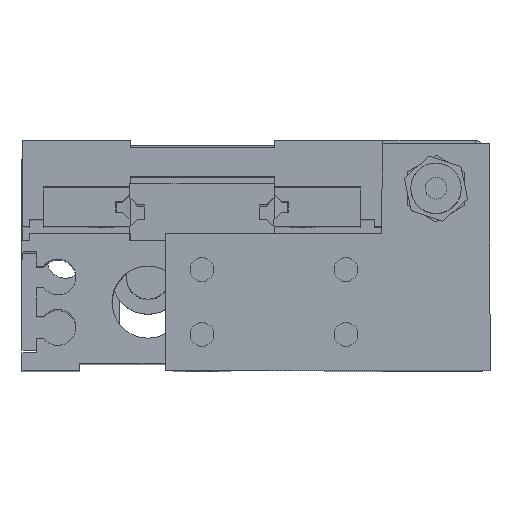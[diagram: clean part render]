
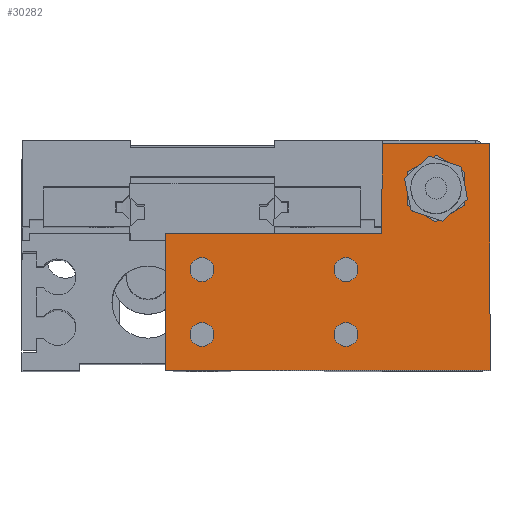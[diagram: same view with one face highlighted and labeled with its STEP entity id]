
A CAD part, top view. The second image highlights one B-rep face of the part: STEP entity #30282.
In plain terms, the highlighted planar face has unit normal (0, 0, 1).
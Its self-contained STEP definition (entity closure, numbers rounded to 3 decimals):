
#19429 = CIRCLE ( 'NONE', #19482, 1.65 ) ;
#19430 = CARTESIAN_POINT ( 'NONE',  ( -11.65, -4.5, 8. ) ) ;
#19431 = CIRCLE ( 'NONE', #19486, 1.65 ) ;
#19463 = CARTESIAN_POINT ( 'NONE',  ( 8.35, -4.5, 8. ) ) ;
#19471 = CARTESIAN_POINT ( 'NONE',  ( 8.35, 4.5, 8. ) ) ;
#19473 = DIRECTION ( 'NONE',  ( 1., 0., 0. ) ) ;
#19474 = DIRECTION ( 'NONE',  ( 0., 0., 1. ) ) ;
#19479 = DIRECTION ( 'NONE',  ( 1., 0., 0. ) ) ;
#19480 = DIRECTION ( 'NONE',  ( 0., 0., 1. ) ) ;
#19481 = AXIS2_PLACEMENT_3D ( 'NONE', #19488, #19474, #19473 ) ;
#19482 = AXIS2_PLACEMENT_3D ( 'NONE', #19491, #19480, #19479 ) ;
#19483 = DIRECTION ( 'NONE',  ( 1., 0., 0. ) ) ;
#19484 = DIRECTION ( 'NONE',  ( 0., 0., 1. ) ) ;
#19485 = CARTESIAN_POINT ( 'NONE',  ( 10., -4.5, 8. ) ) ;
#19486 = AXIS2_PLACEMENT_3D ( 'NONE', #19485, #19484, #19483 ) ;
#19487 = CIRCLE ( 'NONE', #19481, 3.5 ) ;
#19488 = CARTESIAN_POINT ( 'NONE',  ( 22.5, 15.75, 8. ) ) ;
#19491 = CARTESIAN_POINT ( 'NONE',  ( -10., -4.5, 8. ) ) ;
#19510 = CARTESIAN_POINT ( 'NONE',  ( 11.65, -4.5, 8. ) ) ;
#19524 = CARTESIAN_POINT ( 'NONE',  ( -8.35, -4.5, 8. ) ) ;
#19535 = DIRECTION ( 'NONE',  ( 1., 0., 0. ) ) ;
#19536 = DIRECTION ( 'NONE',  ( 0., 0., 1. ) ) ;
#19537 = CARTESIAN_POINT ( 'NONE',  ( 10., 4.5, 8. ) ) ;
#19538 = AXIS2_PLACEMENT_3D ( 'NONE', #19537, #19536, #19535 ) ;
#19540 = CIRCLE ( 'NONE', #19538, 1.65 ) ;
#19549 = CARTESIAN_POINT ( 'NONE',  ( 11.65, 4.5, 8. ) ) ;
#19555 = CARTESIAN_POINT ( 'NONE',  ( -11.65, 4.5, 8. ) ) ;
#19561 = CARTESIAN_POINT ( 'NONE',  ( -15., -9.5, 8. ) ) ;
#19567 = AXIS2_PLACEMENT_3D ( 'NONE', #19569, #19627, #19626 ) ;
#19569 = CARTESIAN_POINT ( 'NONE',  ( -10., 4.5, 8. ) ) ;
#19571 = CIRCLE ( 'NONE', #19567, 1.65 ) ;
#19575 = CARTESIAN_POINT ( 'NONE',  ( 30., -9.5, 8. ) ) ;
#19580 = CARTESIAN_POINT ( 'NONE',  ( -15., 9.5, 8. ) ) ;
#19586 = CARTESIAN_POINT ( 'NONE',  ( -15., 9.5, 8. ) ) ;
#19587 = LINE ( 'NONE', #19586, #19671 ) ;
#19588 = CARTESIAN_POINT ( 'NONE',  ( -8.35, 4.5, 8. ) ) ;
#19626 = DIRECTION ( 'NONE',  ( 1., 0., 0. ) ) ;
#19627 = DIRECTION ( 'NONE',  ( 0., 0., 1. ) ) ;
#19634 = DIRECTION ( 'NONE',  ( 1., 0., 0. ) ) ;
#19635 = VECTOR ( 'NONE', #19634, 1000. ) ;
#19636 = CARTESIAN_POINT ( 'NONE',  ( -15., -9.5, 8. ) ) ;
#19638 = LINE ( 'NONE', #19636, #19635 ) ;
#19670 = DIRECTION ( 'NONE',  ( 0., -1., 0. ) ) ;
#19671 = VECTOR ( 'NONE', #19670, 1000. ) ;
#19693 = CARTESIAN_POINT ( 'NONE',  ( 30., 22., 8. ) ) ;
#19707 = CARTESIAN_POINT ( 'NONE',  ( 15., 9.5, 8. ) ) ;
#19710 = DIRECTION ( 'NONE',  ( 0., 1., 0. ) ) ;
#19711 = VECTOR ( 'NONE', #19710, 1000. ) ;
#19712 = CARTESIAN_POINT ( 'NONE',  ( 30., 22., 8. ) ) ;
#19713 = LINE ( 'NONE', #19712, #19711 ) ;
#19714 = CARTESIAN_POINT ( 'NONE',  ( 15., 22., 8. ) ) ;
#19718 = CARTESIAN_POINT ( 'NONE',  ( 26., 15.75, 8. ) ) ;
#19726 = DIRECTION ( 'NONE',  ( -1., 0., 0. ) ) ;
#19727 = VECTOR ( 'NONE', #19726, 1000. ) ;
#19731 = CARTESIAN_POINT ( 'NONE',  ( 15., 22., 8. ) ) ;
#19732 = LINE ( 'NONE', #19731, #19727 ) ;
#19736 = CARTESIAN_POINT ( 'NONE',  ( 22.5, 15.75, 8. ) ) ;
#19737 = FACE_BOUND ( 'NONE', #30264, .T. ) ;
#19738 = DIRECTION ( 'NONE',  ( 1., 0., 0. ) ) ;
#19739 = DIRECTION ( 'NONE',  ( 0., 0., 1. ) ) ;
#19740 = AXIS2_PLACEMENT_3D ( 'NONE', #19748, #19739, #19738 ) ;
#19742 = PLANE ( 'NONE',  #19783 ) ;
#19743 = FACE_BOUND ( 'NONE', #30272, .T. ) ;
#19748 = CARTESIAN_POINT ( 'NONE',  ( 10., 4.5, 8. ) ) ;
#19749 = CARTESIAN_POINT ( 'NONE',  ( -15., -9.5, 8. ) ) ;
#19756 = CIRCLE ( 'NONE', #19740, 1.65 ) ;
#19758 = DIRECTION ( 'NONE',  ( -1., 0., 0. ) ) ;
#19759 = VECTOR ( 'NONE', #19758, 1000. ) ;
#19762 = CARTESIAN_POINT ( 'NONE',  ( -15., 9.5, 8. ) ) ;
#19763 = LINE ( 'NONE', #19762, #19759 ) ;
#19765 = LINE ( 'NONE', #19801, #19800 ) ;
#19776 = CARTESIAN_POINT ( 'NONE',  ( 10., -4.5, 8. ) ) ;
#19779 = DIRECTION ( 'NONE',  ( 0., 0., 1. ) ) ;
#19783 = AXIS2_PLACEMENT_3D ( 'NONE', #19749, #19779, #19798 ) ;
#19786 = FACE_BOUND ( 'NONE', #30284, .T. ) ;
#19787 = FACE_BOUND ( 'NONE', #30309, .T. ) ;
#19788 = DIRECTION ( 'NONE',  ( 1., 0., 0. ) ) ;
#19789 = DIRECTION ( 'NONE',  ( 0., 0., 1. ) ) ;
#19790 = AXIS2_PLACEMENT_3D ( 'NONE', #19736, #19789, #19788 ) ;
#19791 = CIRCLE ( 'NONE', #19790, 3.5 ) ;
#19792 = FACE_OUTER_BOUND ( 'NONE', #30274, .T. ) ;
#19794 = FACE_BOUND ( 'NONE', #30230, .T. ) ;
#19798 = DIRECTION ( 'NONE',  ( 1., 0., 0. ) ) ;
#19799 = DIRECTION ( 'NONE',  ( 0., -1., 0. ) ) ;
#19800 = VECTOR ( 'NONE', #19799, 1000. ) ;
#19801 = CARTESIAN_POINT ( 'NONE',  ( 15., 9.5, 8. ) ) ;
#19808 = DIRECTION ( 'NONE',  ( 1., 0., 0. ) ) ;
#19809 = DIRECTION ( 'NONE',  ( 0., 0., 1. ) ) ;
#19815 = CARTESIAN_POINT ( 'NONE',  ( -10., 4.5, 8. ) ) ;
#19819 = AXIS2_PLACEMENT_3D ( 'NONE', #19776, #19809, #19808 ) ;
#19839 = CIRCLE ( 'NONE', #19819, 1.65 ) ;
#19849 = DIRECTION ( 'NONE',  ( 1., 0., 0. ) ) ;
#19850 = DIRECTION ( 'NONE',  ( 0., 0., 1. ) ) ;
#19851 = CARTESIAN_POINT ( 'NONE',  ( -10., -4.5, 8. ) ) ;
#19852 = AXIS2_PLACEMENT_3D ( 'NONE', #19851, #19850, #19849 ) ;
#19853 = CIRCLE ( 'NONE', #19852, 1.65 ) ;
#19869 = DIRECTION ( 'NONE',  ( 1., 0., 0. ) ) ;
#19870 = DIRECTION ( 'NONE',  ( 0., 0., 1. ) ) ;
#19871 = AXIS2_PLACEMENT_3D ( 'NONE', #19815, #19870, #19869 ) ;
#19872 = CIRCLE ( 'NONE', #19871, 1.65 ) ;
#22408 = CARTESIAN_POINT ( 'NONE',  ( 19., 15.75, 8. ) ) ;
#30116 = VERTEX_POINT ( 'NONE', #19430 ) ;
#30123 = EDGE_CURVE ( 'NONE', #30137, #30154, #19431, .T. ) ;
#30124 = EDGE_CURVE ( 'NONE', #30116, #30138, #19429, .T. ) ;
#30126 = EDGE_CURVE ( 'NONE', #31437, #30247, #19487, .T. ) ;
#30135 = VERTEX_POINT ( 'NONE', #19471 ) ;
#30137 = VERTEX_POINT ( 'NONE', #19463 ) ;
#30138 = VERTEX_POINT ( 'NONE', #19524 ) ;
#30154 = VERTEX_POINT ( 'NONE', #19510 ) ;
#30162 = VERTEX_POINT ( 'NONE', #19549 ) ;
#30163 = VERTEX_POINT ( 'NONE', #19561 ) ;
#30167 = VERTEX_POINT ( 'NONE', #19555 ) ;
#30168 = EDGE_CURVE ( 'NONE', #30135, #30162, #19540, .T. ) ;
#30177 = VERTEX_POINT ( 'NONE', #19580 ) ;
#30180 = VERTEX_POINT ( 'NONE', #19575 ) ;
#30187 = EDGE_CURVE ( 'NONE', #30167, #30199, #19571, .T. ) ;
#30195 = EDGE_CURVE ( 'NONE', #30177, #30163, #19587, .T. ) ;
#30199 = VERTEX_POINT ( 'NONE', #19588 ) ;
#30209 = EDGE_CURVE ( 'NONE', #30163, #30180, #19638, .T. ) ;
#30223 = VERTEX_POINT ( 'NONE', #19693 ) ;
#30230 = EDGE_LOOP ( 'NONE', ( #30268, #30278 ) ) ;
#30231 = EDGE_CURVE ( 'NONE', #30223, #30244, #19732, .T. ) ;
#30239 = EDGE_CURVE ( 'NONE', #30180, #30223, #19713, .T. ) ;
#30244 = VERTEX_POINT ( 'NONE', #19714 ) ;
#30247 = VERTEX_POINT ( 'NONE', #19718 ) ;
#30254 = VERTEX_POINT ( 'NONE', #19707 ) ;
#30257 = ORIENTED_EDGE ( 'NONE', *, *, #30280, .F. ) ;
#30262 = EDGE_CURVE ( 'NONE', #30254, #30177, #19763, .T. ) ;
#30264 = EDGE_LOOP ( 'NONE', ( #30257, #30285 ) ) ;
#30267 = ORIENTED_EDGE ( 'NONE', *, *, #30231, .T. ) ;
#30268 = ORIENTED_EDGE ( 'NONE', *, *, #30273, .F. ) ;
#30272 = EDGE_LOOP ( 'NONE', ( #30319, #30289 ) ) ;
#30273 = EDGE_CURVE ( 'NONE', #30162, #30135, #19756, .T. ) ;
#30274 = EDGE_LOOP ( 'NONE', ( #30283, #30294, #30290, #30267, #30288, #30293 ) ) ;
#30275 = EDGE_CURVE ( 'NONE', #30244, #30254, #19765, .T. ) ;
#30278 = ORIENTED_EDGE ( 'NONE', *, *, #30168, .F. ) ;
#30280 = EDGE_CURVE ( 'NONE', #30247, #31437, #19791, .T. ) ;
#30282 = ADVANCED_FACE ( 'NONE', ( #19737, #19794, #19743, #19792, #19787, #19786 ), #19742, .T. ) ;
#30283 = ORIENTED_EDGE ( 'NONE', *, *, #30195, .T. ) ;
#30284 = EDGE_LOOP ( 'NONE', ( #30295, #30306 ) ) ;
#30285 = ORIENTED_EDGE ( 'NONE', *, *, #30126, .F. ) ;
#30288 = ORIENTED_EDGE ( 'NONE', *, *, #30275, .T. ) ;
#30289 = ORIENTED_EDGE ( 'NONE', *, *, #30187, .F. ) ;
#30290 = ORIENTED_EDGE ( 'NONE', *, *, #30239, .T. ) ;
#30293 = ORIENTED_EDGE ( 'NONE', *, *, #30262, .T. ) ;
#30294 = ORIENTED_EDGE ( 'NONE', *, *, #30209, .T. ) ;
#30295 = ORIENTED_EDGE ( 'NONE', *, *, #30301, .F. ) ;
#30296 = ORIENTED_EDGE ( 'NONE', *, *, #30332, .F. ) ;
#30301 = EDGE_CURVE ( 'NONE', #30154, #30137, #19839, .T. ) ;
#30306 = ORIENTED_EDGE ( 'NONE', *, *, #30123, .F. ) ;
#30309 = EDGE_LOOP ( 'NONE', ( #30296, #30322 ) ) ;
#30317 = EDGE_CURVE ( 'NONE', #30199, #30167, #19872, .T. ) ;
#30319 = ORIENTED_EDGE ( 'NONE', *, *, #30317, .F. ) ;
#30322 = ORIENTED_EDGE ( 'NONE', *, *, #30124, .F. ) ;
#30332 = EDGE_CURVE ( 'NONE', #30138, #30116, #19853, .T. ) ;
#31437 = VERTEX_POINT ( 'NONE', #22408 ) ;
